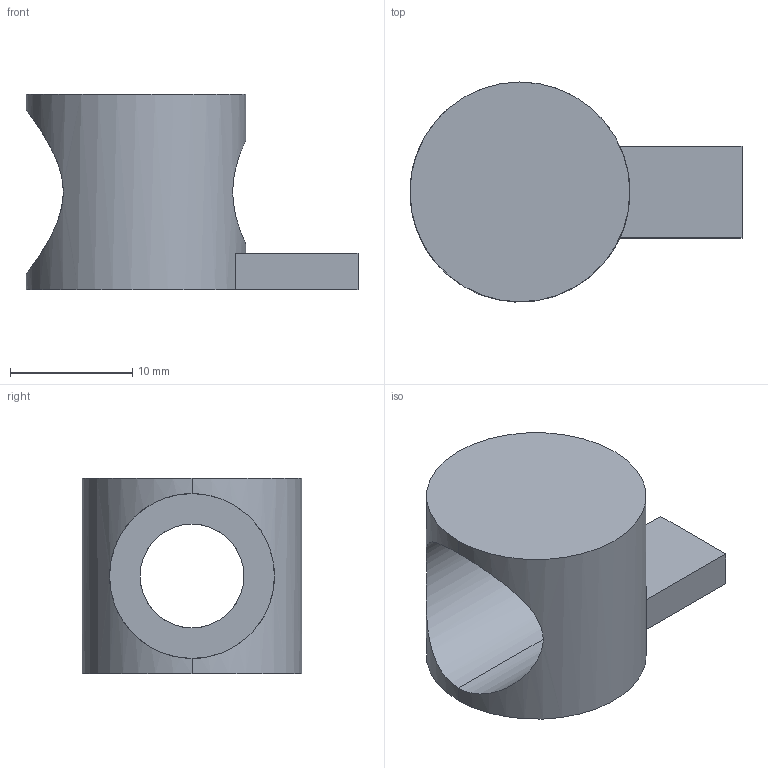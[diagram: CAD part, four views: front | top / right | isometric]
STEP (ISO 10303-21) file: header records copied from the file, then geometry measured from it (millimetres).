
FILE_DESCRIPTION (( 'STEP AP203' ), '1' );
FILE_NAME ('72-CE-IR4040-8.STEP', '2015-07-09T08:22:43', ( '' ), ( '' ), 'SwSTEP 2.0', 'SolidWorks 2013', '' );
FILE_SCHEMA (( 'CONFIG_CONTROL_DESIGN' ));
Length unit declared in the file: millimetre
Products named in the file (1): 72-CE-IR4040-8
Bounding box: 27.18 x 18 x 16 mm (x, y, z)
Volume: 2097.2 mm3; surface area: 2124.2 mm2
Topology: 1 solids, 1 shells, 13 faces, 32 edges, 20 vertices
Faces by surface type: plane 7, cylinder 6
Entity records: 621 total; most frequent: CARTESIAN_POINT 230, DIRECTION 66, ORIENTED_EDGE 64, EDGE_CURVE 32, AXIS2_PLACEMENT_3D 24, VERTEX_POINT 20, LINE 18, VECTOR 18
